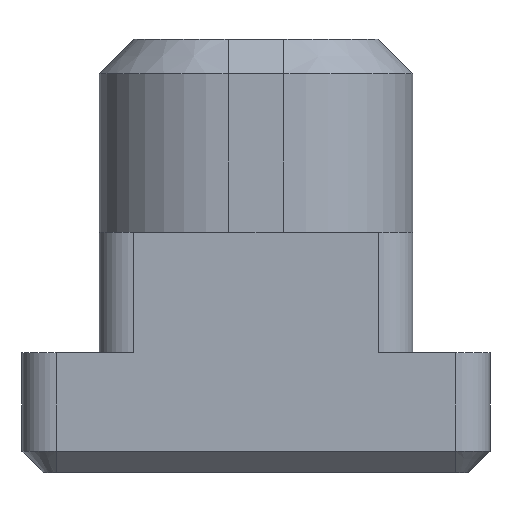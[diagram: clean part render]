
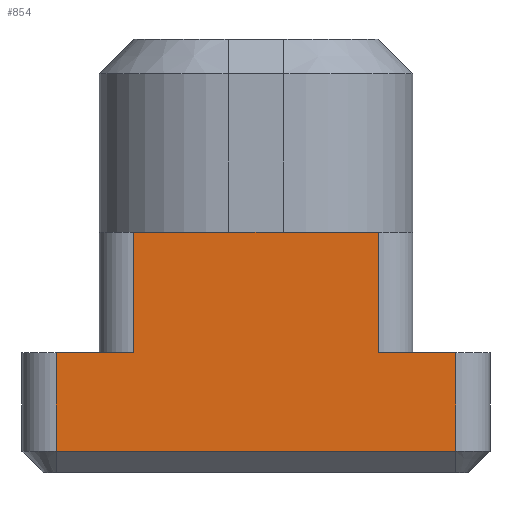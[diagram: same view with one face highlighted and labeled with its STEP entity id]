
A CAD part, front view. The second image highlights one B-rep face of the part: STEP entity #854.
In plain terms, the highlighted planar face has unit normal (0, -1, 0).
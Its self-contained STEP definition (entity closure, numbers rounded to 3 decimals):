
#15=DIRECTION('',(-1.,0.,0.));
#16=VECTOR('',#15,5.7);
#17=CARTESIAN_POINT('',(2.75,-59.75,0.));
#18=LINE('',#17,#16);
#161=DIRECTION('',(0.,0.,-1.));
#162=VECTOR('',#161,2.8);
#163=CARTESIAN_POINT('',(-2.95,-59.75,0.));
#164=LINE('',#163,#162);
#165=DIRECTION('',(-1.,0.,0.));
#166=VECTOR('',#165,9.3);
#167=CARTESIAN_POINT('',(4.55,-59.75,-5.1));
#168=LINE('',#167,#166);
#169=DIRECTION('',(1.,0.,0.));
#170=VECTOR('',#169,1.8);
#171=CARTESIAN_POINT('',(-4.75,-59.75,-2.8));
#172=LINE('',#171,#170);
#173=DIRECTION('',(1.,0.,0.));
#174=VECTOR('',#173,1.8);
#175=CARTESIAN_POINT('',(2.75,-59.75,-2.8));
#176=LINE('',#175,#174);
#194=DIRECTION('',(0.,0.,1.));
#195=VECTOR('',#194,2.3);
#196=CARTESIAN_POINT('',(4.55,-59.75,-5.1));
#197=LINE('',#196,#195);
#234=DIRECTION('',(0.,0.,1.));
#235=VECTOR('',#234,2.8);
#236=CARTESIAN_POINT('',(2.75,-59.75,-2.8));
#237=LINE('',#236,#235);
#333=DIRECTION('',(0.,0.,-1.));
#334=VECTOR('',#333,2.3);
#335=CARTESIAN_POINT('',(-4.75,-59.75,-2.8));
#336=LINE('',#335,#334);
#499=CARTESIAN_POINT('',(2.75,-59.75,0.));
#500=VERTEX_POINT('',#499);
#501=CARTESIAN_POINT('',(-2.95,-59.75,0.));
#502=VERTEX_POINT('',#501);
#543=CARTESIAN_POINT('',(2.75,-59.75,-2.8));
#544=CARTESIAN_POINT('',(4.55,-59.75,-2.8));
#545=VERTEX_POINT('',#543);
#546=VERTEX_POINT('',#544);
#559=CARTESIAN_POINT('',(-2.95,-59.75,-2.8));
#560=VERTEX_POINT('',#559);
#561=CARTESIAN_POINT('',(-4.75,-59.75,-2.8));
#562=VERTEX_POINT('',#561);
#569=CARTESIAN_POINT('',(4.55,-59.75,-5.1));
#570=CARTESIAN_POINT('',(-4.75,-59.75,
-5.1));
#571=VERTEX_POINT('',#569);
#572=VERTEX_POINT('',#570);
#834=CARTESIAN_POINT('',(0.,-59.75,0.));
#835=DIRECTION('',(0.,1.,0.));
#836=DIRECTION('',(-1.,0.,0.));
#837=AXIS2_PLACEMENT_3D('',#834,#835,#836);
#838=PLANE('',#837);
#840=ORIENTED_EDGE('',*,*,#839,.T.);
#842=ORIENTED_EDGE('',*,*,#841,.F.);
#843=ORIENTED_EDGE('',*,*,#807,.T.);
#844=ORIENTED_EDGE('',*,*,#828,.F.);
#845=ORIENTED_EDGE('',*,*,#644,.F.);
#847=ORIENTED_EDGE('',*,*,#846,.F.);
#849=ORIENTED_EDGE('',*,*,#848,.T.);
#851=ORIENTED_EDGE('',*,*,#850,.F.);
#852=EDGE_LOOP('',(#840,#842,#843,#844,#845,#847,#849,#851));
#853=FACE_OUTER_BOUND('',#852,.F.);
#854=ADVANCED_FACE('',(#853),#838,.F.);
#644=EDGE_CURVE('',#500,#502,#18,.T.);
#807=EDGE_CURVE('',#562,#560,#172,.T.);
#828=EDGE_CURVE('',#502,#560,#164,.T.);
#839=EDGE_CURVE('',#571,#572,#168,.T.);
#841=EDGE_CURVE('',#562,#572,#336,.T.);
#846=EDGE_CURVE('',#545,#500,#237,.T.);
#848=EDGE_CURVE('',#545,#546,#176,.T.);
#850=EDGE_CURVE('',#571,#546,#197,.T.);
